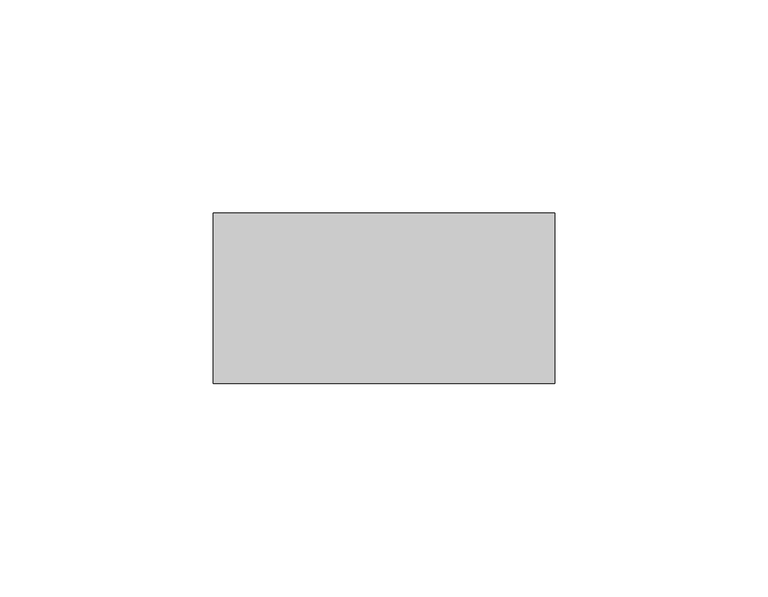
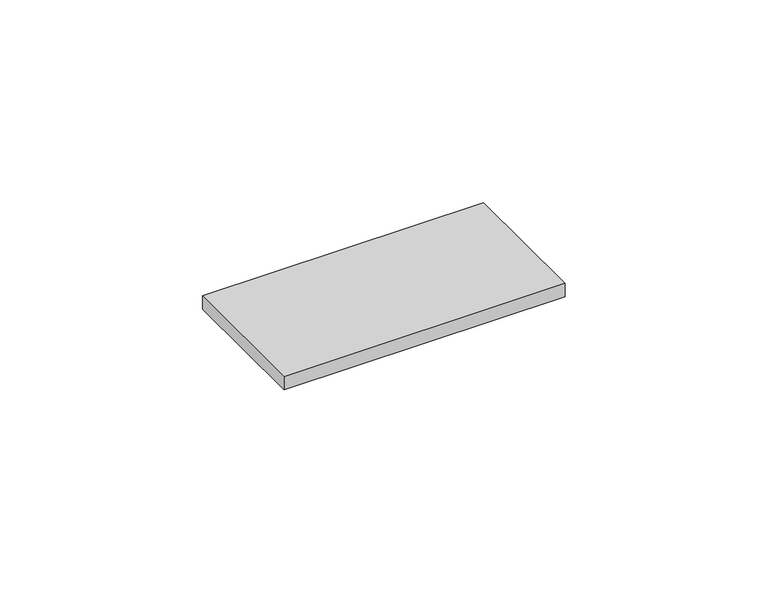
"""IFC4 building model written with IfcOpenShell, lengths in millimetres: duct fitting geometry, КНС_Соединение_Полоса_Неспецифицируемое_DKC : NG3105CU_Медь_80х70 мм."""

from ifc_helpers import new_model, si_unit, frame, origin, place, context, project, spatial, polyline, outline, extrude, source, transform, mapped, element, save


def duct_fitting_382dbbc1(model_context):
    return source(origin(), model_context, "Body", "SweptSolid", [
        extrude(outline(polyline([(-48.75, -20.0), (-48.75, 20.0), (31.25, 20.0), (31.25, -20.0), (-48.75, -20.0)])), frame((0.0, 0.0, -2.0), z_axis=(0.0, 0.0, 1.0), x_axis=(1.0, 0.0, 0.0)), (0.0, 0.0, 1.0), 4.0),
    ])


if __name__ == "__main__":
    model = new_model("IFC4")
    model_context = context("Model", 3, world=origin())
    ifc_project = project(units=[si_unit("LENGTHUNIT", "METRE", prefix="MILLI")], contexts=[model_context])
    site = spatial("IfcSite", under=ifc_project)
    building = spatial("IfcBuilding", under=site)
    placement = place(None, origin())
    duct_fitting_shape = duct_fitting_382dbbc1(model_context)
    element("IfcDuctFitting", 1, ObjectType="КНС_Соединение_Полоса_Неспецифицируемое_DKC : NG3105CU_Медь_80х70 мм", at=placement, inside=building, context=model_context, shape_type="MappedRepresentation", body=[
        mapped(duct_fitting_shape, transform((0.0, 0.0, 0.0), x_axis=(1.0, 0.0, 0.0), y_axis=(0.0, 1.0, 0.0), z_axis=(0.0, 0.0, 1.0))),
    ])
    save(model, "model.ifc")
